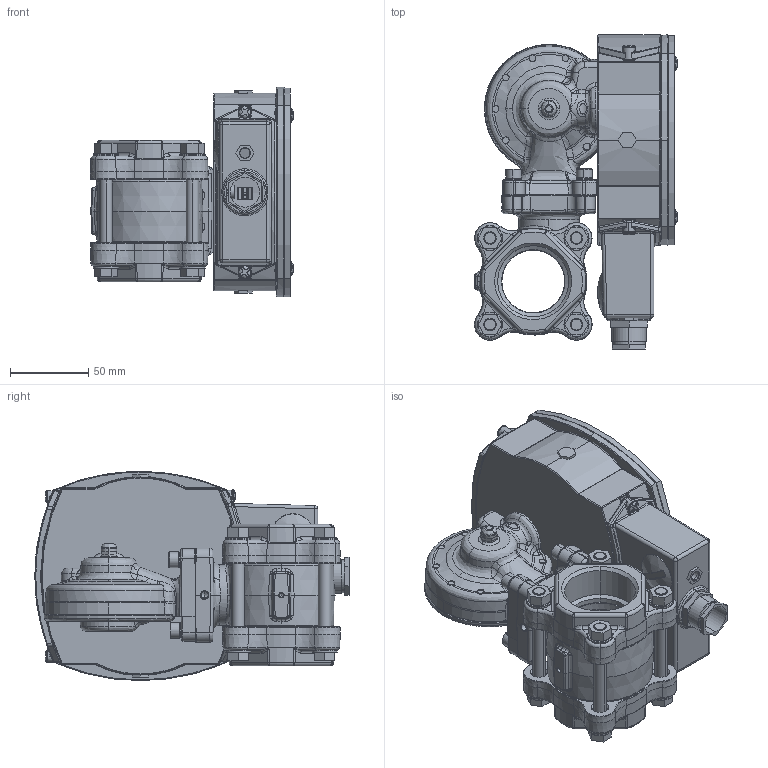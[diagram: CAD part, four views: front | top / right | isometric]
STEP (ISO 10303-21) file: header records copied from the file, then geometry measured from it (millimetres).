
FILE_DESCRIPTION (( 'STEP AP214' ), '1' );
FILE_NAME ('S GL40.STEP', '2020-09-03T11:51:03', ( '' ), ( '' ), 'SwSTEP 2.0', 'SolidWorks 2018', '' );
FILE_SCHEMA (( 'AUTOMOTIVE_DESIGN' ));
Length unit declared in the file: millimetre
Products named in the file (36): ID_1_4_8; ID_12; ID_1_4_3; ID_4_6; ID_5_2; 40-92011; ID_1_4; GL40_1; ID_1_1_2; ID_7_2; ID_14; ID_6_1; skruv_membranhus_1; ID_1_4_4; ID_1_4_5; S2_25_internal_2_1; ID_5_5; MC6S M6x22_1; S GL40; ID_4_3; ID_3_3; ID_9; Lock kontrollerad HMAB ELETTA 20160908_1; S hus; ID_1_4_2; fj_X_E4derbricka till membranhus BR_1; ID_2_4; ID_10; M5 membranskruvar_1; kupolmutter_1; m_X_E4ssingsmembran_1; Membranhus kontrollerad HMAB ELETTA 20160908_1; ID_10_1; ID_13; ID_1_1; ID_11_1
Assembly tree (68 placements, depth 5):
  S GL40
    S2_25_internal_2_1
      m_X_E4ssingsmembran_1
      kupolmutter_1
    Membranhus kontrollerad HMAB ELETTA 20160908_1
    Lock kontrollerad HMAB ELETTA 20160908_1
    MC6S M6x22_1  x4
    M5 membranskruvar_1  x9
      fj_X_E4derbricka till membranhus BR_1
      skruv_membranhus_1
    S hus
      ID_1_1
        ID_1_4
        ID_2_4
        ID_3_3
        ID_4_3
        ID_5_2
        ID_6_1  x4
        ID_7_2  x4
        ID_1_4_2
        ID_1_1_2
          ID_9  x2
        ID_1_4_3
        ID_1_4_4
        ID_10
        ID_1_4_5
      ID_12  x2
      ID_13
      ID_14
      ID_1_4_8
    GL40_1
      ID_4_6
      ID_5_5  x4
      ID_10_1  x8
      ID_11_1  x4
      40-92011  x2
Bounding box: 129.5 x 200.42 x 133.42 mm (x, y, z)
Volume: 646910.8 mm3; surface area: 304252.4 mm2
Topology: 71 solids, 71 shells, 2899 faces, 7018 edges, 4320 vertices
Faces by surface type: plane 935, cylinder 748, bspline 560, cone 388, torus 233, sphere 35
Entity records: 142570 total; most frequent: CARTESIAN_POINT 74865, ORIENTED_EDGE 10158, DIRECTION 8005, EDGE_CURVE 5079, VERTEX_POINT 3148, AXIS2_PLACEMENT_3D 3089, EDGE_LOOP 2297, ADVANCED_FACE 2073
